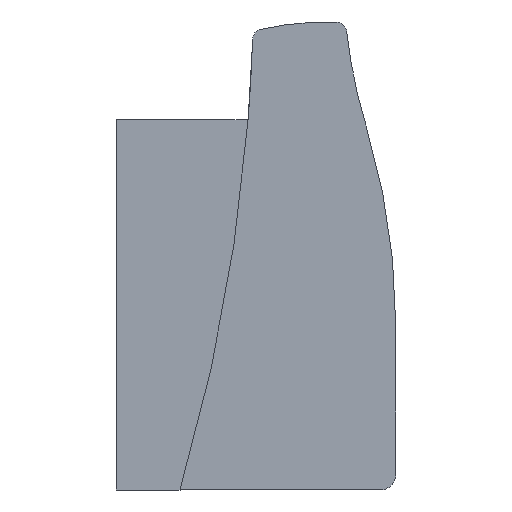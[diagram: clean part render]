
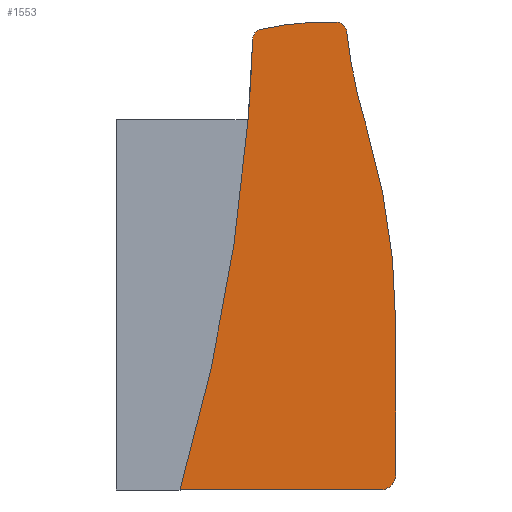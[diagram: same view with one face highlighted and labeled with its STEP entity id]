
A CAD part, front view. The second image highlights one B-rep face of the part: STEP entity #1553.
In plain terms, the highlighted planar face has unit normal (0, -1, 0).
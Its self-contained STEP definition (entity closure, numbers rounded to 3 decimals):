
#38 = LINE ( 'NONE', #305, #39 ) ;
#39 = VECTOR ( 'NONE', #306, 1000. ) ;
#43 = CIRCLE ( 'NONE', #1489, 58. ) ;
#44 = LINE ( 'NONE', #440, #45 ) ;
#45 = VECTOR ( 'NONE', #424, 1000. ) ;
#81 = CIRCLE ( 'NONE', #1341, 348.5 ) ;
#121 = CIRCLE ( 'NONE', #1342, 2. ) ;
#210 = AXIS2_PLACEMENT_3D ( 'NONE', #2415, #2356, #2353 ) ;
#211 = EDGE_CURVE ( 'NONE', #2281, #2265, #559, .T. ) ;
#229 = EDGE_CURVE ( 'NONE', #2395, #2419, #548, .T. ) ;
#262 = CIRCLE ( 'NONE', #1327, 99. ) ;
#275 = CIRCLE ( 'NONE', #1334, 348.5 ) ;
#298 = CARTESIAN_POINT ( 'NONE',  ( 40.5, -2.5, 11.98 ) ) ;
#305 = CARTESIAN_POINT ( 'NONE',  ( 53.5, -2.5, -16.6 ) ) ;
#306 = DIRECTION ( 'NONE',  ( 0., 0., 1. ) ) ;
#319 = CARTESIAN_POINT ( 'NONE',  ( 26.099, -2.5, 66.657 ) ) ;
#321 = CARTESIAN_POINT ( 'NONE',  ( 53.5, -2.5, 11.675 ) ) ;
#366 = CARTESIAN_POINT ( 'NONE',  ( 53.5, -2.5, -16.6 ) ) ;
#367 = CARTESIAN_POINT ( 'NONE',  ( 50.5, -2.5, -19.6 ) ) ;
#375 = CARTESIAN_POINT ( 'NONE',  ( 44.101, -2.5, 68.175 ) ) ;
#392 = CARTESIAN_POINT ( 'NONE',  ( 47.775, -2.5, 50.246 ) ) ;
#393 = CARTESIAN_POINT ( 'NONE',  ( 42.171, -2.5, 69.956 ) ) ;
#424 = DIRECTION ( 'NONE',  ( 1., 0., 0. ) ) ;
#438 = DIRECTION ( 'NONE',  ( -1., 0., 0. ) ) ;
#439 = DIRECTION ( 'NONE',  ( 0., -1., 0. ) ) ;
#440 = CARTESIAN_POINT ( 'NONE',  ( 50.5, -2.5, -19.6 ) ) ;
#459 = DIRECTION ( 'NONE',  ( 0., 1., 0. ) ) ;
#461 = DIRECTION ( 'NONE',  ( -1., 0., 0. ) ) ;
#466 = CARTESIAN_POINT ( 'NONE',  ( -322.2, -2.5, 78.5 ) ) ;
#548 = CIRCLE ( 'NONE', #210, 3. ) ;
#559 = CIRCLE ( 'NONE', #1541, 132.8 ) ;
#664 = CIRCLE ( 'NONE', #1322, 2. ) ;
#669 = DIRECTION ( 'NONE',  ( -1., 0., 0. ) ) ;
#685 = DIRECTION ( 'NONE',  ( 0., 1., 0. ) ) ;
#703 = DIRECTION ( 'NONE',  ( -1., 0., 0. ) ) ;
#704 = DIRECTION ( 'NONE',  ( 0., 1., 0. ) ) ;
#721 = CARTESIAN_POINT ( 'NONE',  ( -322.2, -2.5, 78.5 ) ) ;
#774 = CARTESIAN_POINT ( 'NONE',  ( 27.655, -2.5, 68.54 ) ) ;
#812 = CARTESIAN_POINT ( 'NONE',  ( 25.235, -2.5, 51.28 ) ) ;
#830 = CARTESIAN_POINT ( 'NONE',  ( 12.208, -2.5, -19.6 ) ) ;
#979 = DIRECTION ( 'NONE',  ( -1., 0., 0. ) ) ;
#980 = DIRECTION ( 'NONE',  ( 0., -1., 0. ) ) ;
#982 = PLANE ( 'NONE',  #1533 ) ;
#983 = CARTESIAN_POINT ( 'NONE',  ( 11.5, -2.5, -19.6 ) ) ;
#1192 = CARTESIAN_POINT ( 'NONE',  ( 42.113, -2.5, 67.957 ) ) ;
#1193 = DIRECTION ( 'NONE',  ( 0., -1., 0. ) ) ;
#1194 = DIRECTION ( 'NONE',  ( -1., 0., 0. ) ) ;
#1218 = CARTESIAN_POINT ( 'NONE',  ( 142.508, -2.5, 79. ) ) ;
#1286 = CARTESIAN_POINT ( 'NONE',  ( 28.098, -2.5, 66.589 ) ) ;
#1319 = DIRECTION ( 'NONE',  ( -1., 0., 0. ) ) ;
#1321 = DIRECTION ( 'NONE',  ( 0., -1., 0. ) ) ;
#1322 = AXIS2_PLACEMENT_3D ( 'NONE', #1286, #1321, #1319 ) ;
#1327 = AXIS2_PLACEMENT_3D ( 'NONE', #1218, #704, #703 ) ;
#1334 = AXIS2_PLACEMENT_3D ( 'NONE', #721, #685, #669 ) ;
#1341 = AXIS2_PLACEMENT_3D ( 'NONE', #466, #459, #461 ) ;
#1342 = AXIS2_PLACEMENT_3D ( 'NONE', #1192, #1193, #1194 ) ;
#1389 = FACE_OUTER_BOUND ( 'NONE', #1660, .T. ) ;
#1489 = AXIS2_PLACEMENT_3D ( 'NONE', #298, #439, #438 ) ;
#1533 = AXIS2_PLACEMENT_3D ( 'NONE', #983, #980, #979 ) ;
#1541 = AXIS2_PLACEMENT_3D ( 'NONE', #2369, #2365, #2390 ) ;
#1553 = ADVANCED_FACE ( 'NONE', ( #1389 ), #982, .T. ) ;
#1573 = ORIENTED_EDGE ( 'NONE', *, *, #2525, .T. ) ;
#1574 = ORIENTED_EDGE ( 'NONE', *, *, #2536, .T. ) ;
#1575 = ORIENTED_EDGE ( 'NONE', *, *, #2469, .T. ) ;
#1578 = ORIENTED_EDGE ( 'NONE', *, *, #2451, .T. ) ;
#1579 = ORIENTED_EDGE ( 'NONE', *, *, #229, .T. ) ;
#1580 = ORIENTED_EDGE ( 'NONE', *, *, #2447, .T. ) ;
#1581 = ORIENTED_EDGE ( 'NONE', *, *, #211, .T. ) ;
#1582 = ORIENTED_EDGE ( 'NONE', *, *, #2528, .T. ) ;
#1583 = ORIENTED_EDGE ( 'NONE', *, *, #2492, .T. ) ;
#1584 = ORIENTED_EDGE ( 'NONE', *, *, #2449, .T. ) ;
#1660 = EDGE_LOOP ( 'NONE', ( #1573, #1574, #1575, #1578, #1579, #1580, #1581, #1582, #1583, #1584 ) ) ;
#2194 = VERTEX_POINT ( 'NONE', #830 ) ;
#2213 = VERTEX_POINT ( 'NONE', #812 ) ;
#2242 = VERTEX_POINT ( 'NONE', #774 ) ;
#2261 = VERTEX_POINT ( 'NONE', #393 ) ;
#2265 = VERTEX_POINT ( 'NONE', #392 ) ;
#2279 = VERTEX_POINT ( 'NONE', #319 ) ;
#2281 = VERTEX_POINT ( 'NONE', #321 ) ;
#2298 = VERTEX_POINT ( 'NONE', #375 ) ;
#2353 = DIRECTION ( 'NONE',  ( -1., 0., 0. ) ) ;
#2356 = DIRECTION ( 'NONE',  ( 0., -1., 0. ) ) ;
#2365 = DIRECTION ( 'NONE',  ( 0., -1., 0. ) ) ;
#2369 = CARTESIAN_POINT ( 'NONE',  ( -79.3, -2.5, 11.675 ) ) ;
#2390 = DIRECTION ( 'NONE',  ( -1., 0., 0. ) ) ;
#2395 = VERTEX_POINT ( 'NONE', #367 ) ;
#2415 = CARTESIAN_POINT ( 'NONE',  ( 50.5, -2.5, -16.6 ) ) ;
#2419 = VERTEX_POINT ( 'NONE', #366 ) ;
#2447 = EDGE_CURVE ( 'NONE', #2419, #2281, #38, .T. ) ;
#2449 = EDGE_CURVE ( 'NONE', #2261, #2242, #43, .T. ) ;
#2451 = EDGE_CURVE ( 'NONE', #2194, #2395, #44, .T. ) ;
#2469 = EDGE_CURVE ( 'NONE', #2213, #2194, #81, .T. ) ;
#2492 = EDGE_CURVE ( 'NONE', #2298, #2261, #121, .T. ) ;
#2525 = EDGE_CURVE ( 'NONE', #2242, #2279, #664, .T. ) ;
#2528 = EDGE_CURVE ( 'NONE', #2265, #2298, #262, .T. ) ;
#2536 = EDGE_CURVE ( 'NONE', #2279, #2213, #275, .T. ) ;
